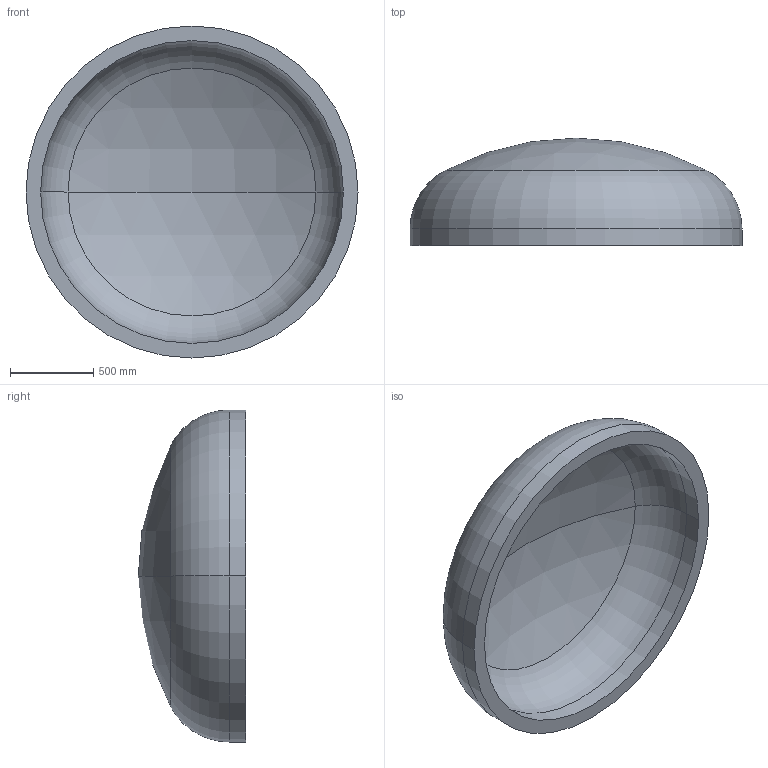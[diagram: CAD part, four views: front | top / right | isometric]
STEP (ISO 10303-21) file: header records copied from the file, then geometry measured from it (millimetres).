
FILE_DESCRIPTION (( 'STEP AP203' ), '1' );
FILE_NAME ('DIN 28013 Korbbogenform_-_Boden DIN 28013 - 2000 x 100 - I - s=88.step', '2016-07-01T14:06:30', ( '' ), ( '' ), 'SwSTEP 2.0', 'SolidWorks 2013', '' );
FILE_SCHEMA (( 'CONFIG_CONTROL_DESIGN' ));
Length unit declared in the file: millimetre
Products named in the file (1): DIN 28013 Korbbogenform_-_Boden DIN 28013 - 2000 x 100 - I - s=88
Bounding box: 2000 x 647.08 x 2000 mm (x, y, z)
Volume: 415080885.7 mm3; surface area: 9978464.7 mm2
Topology: 1 solids, 1 shells, 13 faces, 24 edges, 14 vertices
Faces by surface type: torus 4, cylinder 4, sphere 4, plane 1
Entity records: 407 total; most frequent: DIRECTION 72, CARTESIAN_POINT 52, ORIENTED_EDGE 48, AXIS2_PLACEMENT_3D 34, EDGE_CURVE 24, CIRCLE 20, EDGE_LOOP 14, VERTEX_POINT 14
